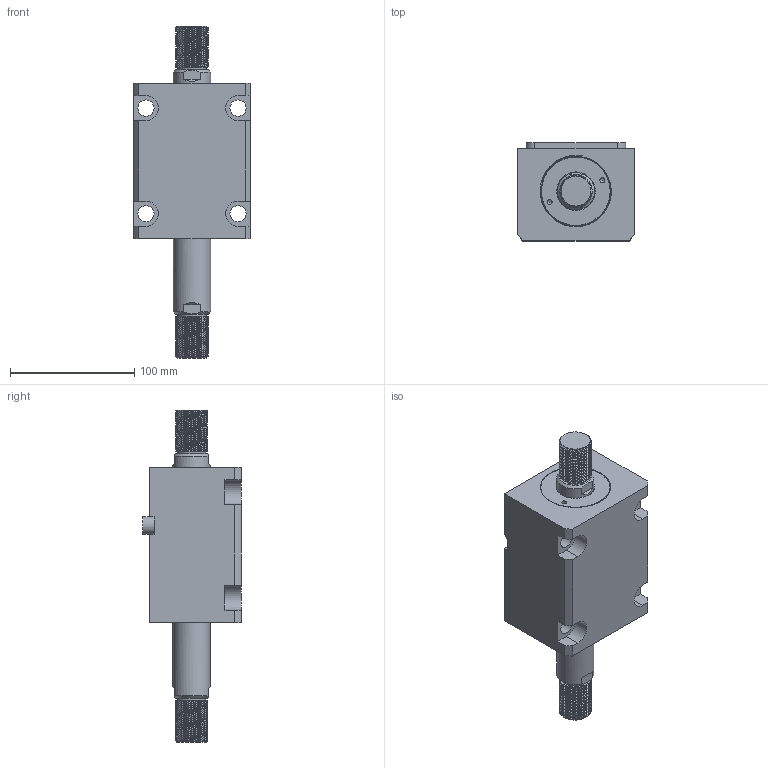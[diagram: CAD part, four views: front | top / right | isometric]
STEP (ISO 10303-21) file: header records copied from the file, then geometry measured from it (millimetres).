
FILE_DESCRIPTION(/* description */ (''),/* implementation_level */ '2;1');
FILE_NAME(/* name */ 'CHTB-LWM50-50W.stp',/* time_stamp */ '2022-04-29T18:12:46+08:00',/* author */ (''),/* organization */ (''),/* preprocessor_version */ 'ST-DEVELOPER v16.7',/* originating_system */ 'SIEMENS PLM Software NX 12.0',/* authorisation */ '');
FILE_SCHEMA (('AUTOMOTIVE_DESIGN { 1 0 10303 214 3 1 1 1 }'));
Length unit declared in the file: millimetre
Products named in the file (1): CHTB-LWM50-50W
Bounding box: 94 x 79 x 267 mm (x, y, z)
Volume: 838109.5 mm3; surface area: 133661.4 mm2
Topology: 3 solids, 3 shells, 491 faces, 1529 edges, 1087 vertices
Faces by surface type: plane 331, extrusion 84, cylinder 44, bspline 12, torus 11, cone 9
Full cylindrical faces by diameter (mm): 4 x2, 5 x2, 12 x2, 13 x4, 23 x2, 30 x4, 39 x1, 46 x1, 50 x5, 59 x1
Entity records: 28763 total; most frequent: CARTESIAN_POINT 13709, ORIENTED_EDGE 2938, DIRECTION 2014, EDGE_CURVE 1469, VERTEX_POINT 1075, VECTOR 1012, LINE 928, EDGE_LOOP 596
